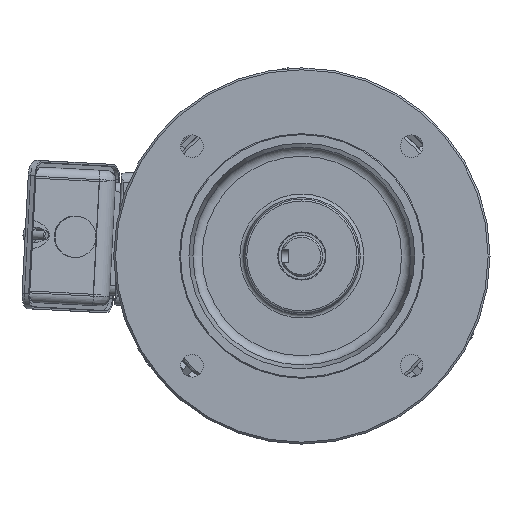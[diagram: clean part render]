
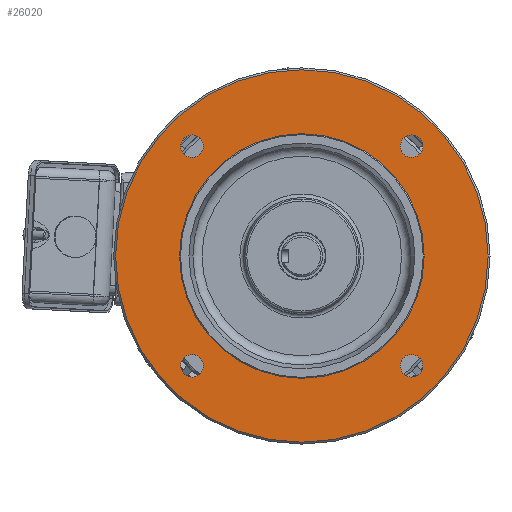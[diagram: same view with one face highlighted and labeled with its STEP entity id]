
A CAD part, front view. The second image highlights one B-rep face of the part: STEP entity #26020.
In plain terms, the highlighted planar face has unit normal (0, -1, 0).
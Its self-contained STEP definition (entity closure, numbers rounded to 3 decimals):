
#546=PLANE('',#27863);
#4243=CIRCLE('',#27862,65.);
#4244=CIRCLE('',#27864,99.);
#4245=CIRCLE('',#27865,6.);
#4246=CIRCLE('',#27866,6.);
#4247=CIRCLE('',#27867,6.);
#4248=CIRCLE('',#27868,6.);
#6774=ORIENTED_EDGE('',*,*,#12980,.T.);
#6775=ORIENTED_EDGE('',*,*,#12981,.F.);
#6776=ORIENTED_EDGE('',*,*,#12982,.F.);
#6777=ORIENTED_EDGE('',*,*,#12983,.F.);
#6778=ORIENTED_EDGE('',*,*,#12984,.F.);
#6779=ORIENTED_EDGE('',*,*,#12979,.F.);
#12979=EDGE_CURVE('',#16213,#16213,#4243,.T.);
#12980=EDGE_CURVE('',#16214,#16214,#4244,.T.);
#12981=EDGE_CURVE('',#16215,#16215,#4245,.T.);
#12982=EDGE_CURVE('',#16216,#16216,#4246,.T.);
#12983=EDGE_CURVE('',#16217,#16217,#4247,.T.);
#12984=EDGE_CURVE('',#16218,#16218,#4248,.T.);
#16213=VERTEX_POINT('',#40877);
#16214=VERTEX_POINT('',#40880);
#16215=VERTEX_POINT('',#40882);
#16216=VERTEX_POINT('',#40884);
#16217=VERTEX_POINT('',#40886);
#16218=VERTEX_POINT('',#40888);
#19050=EDGE_LOOP('',(#6774));
#19051=EDGE_LOOP('',(#6775));
#19052=EDGE_LOOP('',(#6776));
#19053=EDGE_LOOP('',(#6777));
#19054=EDGE_LOOP('',(#6778));
#19055=EDGE_LOOP('',(#6779));
#20869=FACE_BOUND('',#19050,.T.);
#20870=FACE_BOUND('',#19051,.T.);
#20871=FACE_BOUND('',#19052,.T.);
#20872=FACE_BOUND('',#19053,.T.);
#20873=FACE_BOUND('',#19054,.T.);
#20874=FACE_BOUND('',#19055,.T.);
#26020=ADVANCED_FACE('',(#20869,#20870,#20871,#20872,#20873,#20874),#546,
 .T.);
#27862=AXIS2_PLACEMENT_3D('',#40876,#31603,#31604);
#27863=AXIS2_PLACEMENT_3D('',#40878,#31605,#31606);
#27864=AXIS2_PLACEMENT_3D('',#40879,#31607,#31608);
#27865=AXIS2_PLACEMENT_3D('',#40881,#31609,#31610);
#27866=AXIS2_PLACEMENT_3D('',#40883,#31611,#31612);
#27867=AXIS2_PLACEMENT_3D('',#40885,#31613,#31614);
#27868=AXIS2_PLACEMENT_3D('',#40887,#31615,#31616);
#31603=DIRECTION('',(0.,-1.,0.));
#31604=DIRECTION('',(1.,0.,0.));
#31605=DIRECTION('',(0.,-1.,0.));
#31606=DIRECTION('',(1.,0.,0.));
#31607=DIRECTION('',(0.,-1.,0.));
#31608=DIRECTION('',(1.,0.,0.));
#31609=DIRECTION('',(0.,-1.,0.));
#31610=DIRECTION('',(0.,0.,1.));
#31611=DIRECTION('',(0.,-1.,0.));
#31612=DIRECTION('',(-1.,0.,0.));
#31613=DIRECTION('',(0.,-1.,0.));
#31614=DIRECTION('',(0.,0.,-1.));
#31615=DIRECTION('',(0.,-1.,0.));
#31616=DIRECTION('',(1.,0.,0.));
#40876=CARTESIAN_POINT('',(0.,3.5,0.));
#40877=CARTESIAN_POINT('',(65.,3.5,0.));
#40878=CARTESIAN_POINT('',(0.,3.5,65.));
#40879=CARTESIAN_POINT('',(0.,3.5,0.));
#40880=CARTESIAN_POINT('',(99.,3.5,0.));
#40881=CARTESIAN_POINT('',(-58.336,3.5,-58.336));
#40882=CARTESIAN_POINT('',(-58.336,3.5,-52.336));
#40883=CARTESIAN_POINT('',(58.336,3.5,-58.336));
#40884=CARTESIAN_POINT('',(52.336,3.5,-58.336));
#40885=CARTESIAN_POINT('',(58.336,3.5,58.336));
#40886=CARTESIAN_POINT('',(58.336,3.5,52.336));
#40887=CARTESIAN_POINT('',(-58.336,3.5,58.336));
#40888=CARTESIAN_POINT('',(-52.336,3.5,58.336));
